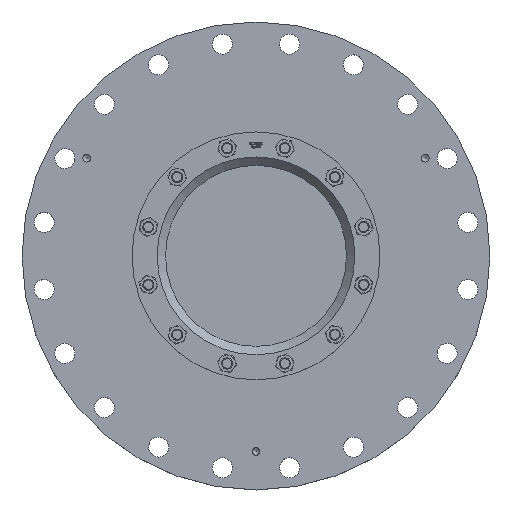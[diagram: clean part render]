
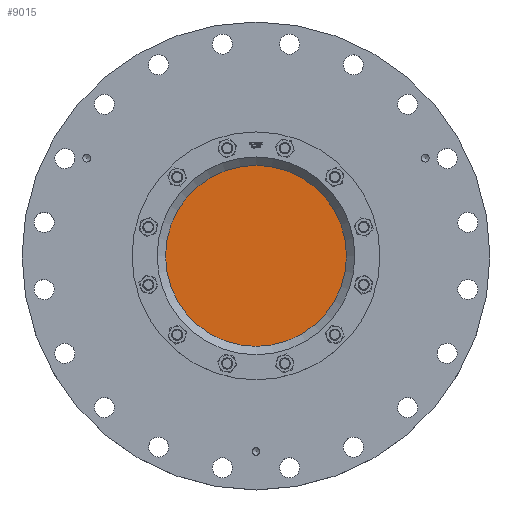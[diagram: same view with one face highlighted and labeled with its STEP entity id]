
A CAD part, top view. The second image highlights one B-rep face of the part: STEP entity #9015.
In plain terms, the highlighted planar face has unit normal (0, 0, 1).
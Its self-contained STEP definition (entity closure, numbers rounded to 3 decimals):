
#2587=FACE_OUTER_BOUND('',#3136,.T.);
#3136=EDGE_LOOP('',(#6234));
#3861=CIRCLE('',#9567,162.5);
#4119=VERTEX_POINT('',#12180);
#4959=EDGE_CURVE('',#4119,#4119,#3861,.T.);
#6234=ORIENTED_EDGE('',*,*,#4959,.F.);
#8784=PLANE('',#9566);
#9015=ADVANCED_FACE('',(#2587),#8784,.F.);
#9566=AXIS2_PLACEMENT_3D('',#12179,#10267,#10268);
#9567=AXIS2_PLACEMENT_3D('',#12181,#10269,#10270);
#10267=DIRECTION('center_axis',(0.,0.,-1.));
#10268=DIRECTION('ref_axis',(-1.,0.,0.));
#10269=DIRECTION('center_axis',(0.,0.,-1.));
#10270=DIRECTION('ref_axis',(-1.,0.,0.));
#12179=CARTESIAN_POINT('Origin',(0.,0.,160.));
#12180=CARTESIAN_POINT('',(162.5,0.,160.));
#12181=CARTESIAN_POINT('Origin',(0.,0.,160.));
